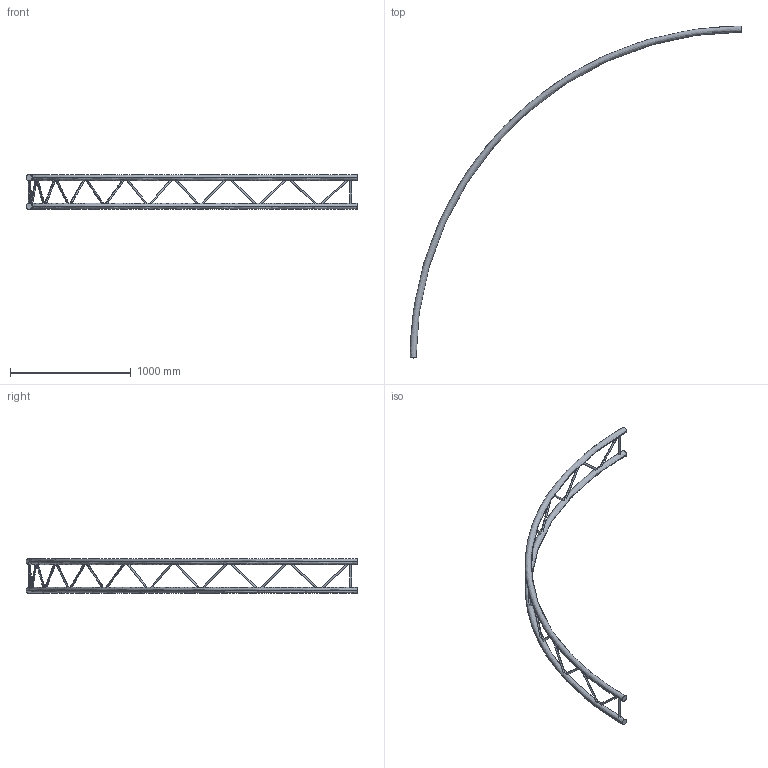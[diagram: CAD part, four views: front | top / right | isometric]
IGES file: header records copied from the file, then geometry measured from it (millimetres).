
Start section: SolidWorks IGES file using analytic representation for surfaces
Global section: file name: K:\BIBLIO\asd_biblio\EX290\Cercles\EXC290V\EXC29550V\EXC29550V.IGS; native system: SolidWorks 2009; preprocessor: SolidWorks 2009; author: des3; date: 091026.101934; units: millimetre
Bounding box: 2750 x 2750 x 287 mm (x, y, z)
Surface area: 1623658.8 mm2 (no closed solid volume)
Topology: 0 solids, 0 shells, 62 faces, 2389 edges, 2389 vertices
Faces by surface type: revolution 36, bspline 26
